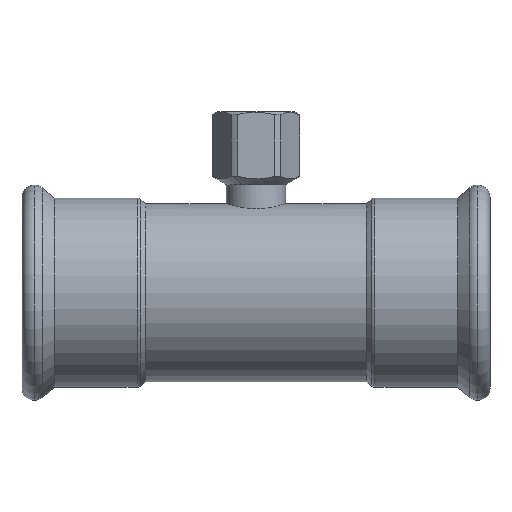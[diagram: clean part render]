
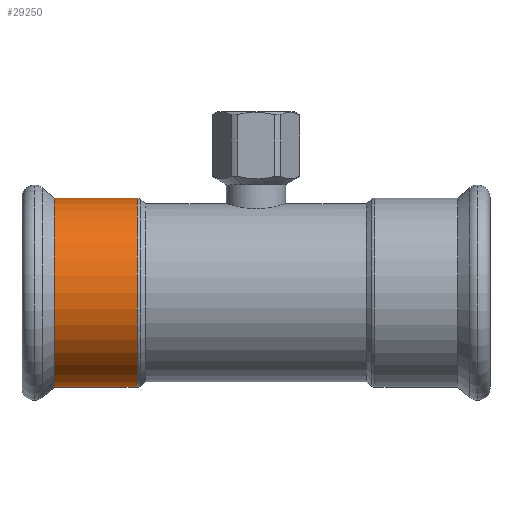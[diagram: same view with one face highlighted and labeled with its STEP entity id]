
A CAD part, top view. The second image highlights one B-rep face of the part: STEP entity #29250.
In plain terms, the highlighted cylindrical face has radius 28.7 mm (diameter 57.4 mm), a partial arc.
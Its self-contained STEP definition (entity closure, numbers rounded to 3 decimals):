
#530=CARTESIAN_POINT('',(59.044,196.267,0.));
#540=VERTEX_POINT('',#530);
#570=CARTESIAN_POINT('',(30.344,196.267,0.));
#580=DIRECTION('',(0.,1.,0.));
#590=DIRECTION('',(1.,0.,0.));
#600=AXIS2_PLACEMENT_3D('',#570,#580,#590);
#610=CIRCLE('',#600,28.7);
#620=CARTESIAN_POINT('',(1.644,196.267,0.));
#630=VERTEX_POINT('',#620);
#2570=CARTESIAN_POINT('',(30.344,208.545,0.));
#2580=DIRECTION('',(0.,-1.,0.));
#2590=DIRECTION('',(-1.,0.,0.));
#2600=AXIS2_PLACEMENT_3D('',#2570,#2580,#2590);
#2610=CYLINDRICAL_SURFACE('',#2600,28.7);
#2620=CARTESIAN_POINT('',(59.044,208.545,
0.));
#2630=DIRECTION('',(0.,-1.,0.));
#2640=VECTOR('',#2630,1.);
#2650=LINE('',#2620,#2640);
#2660=CARTESIAN_POINT('',(59.044,221.441,
0.));
#2670=VERTEX_POINT('',#2660);
#2680=EDGE_CURVE('',#2670,#540,#2650,.T.);
#2700=CARTESIAN_POINT('',(30.344,221.441,0.));
#2710=DIRECTION('',(0.,1.,0.));
#2720=DIRECTION('',(-1.,0.,0.));
#2730=AXIS2_PLACEMENT_3D('',#2700,#2710,#2720);
#2740=CIRCLE('',#2730,28.7);
#2750=CARTESIAN_POINT('',(1.644,221.441,0.));
#2760=VERTEX_POINT('',#2750);
#2790=CARTESIAN_POINT('',(1.644,208.545,0.));
#2800=DIRECTION('',(0.,-1.,0.));
#2810=VECTOR('',#2800,1.);
#2820=LINE('',#2790,#2810);
#2830=EDGE_CURVE('',#2760,#630,#2820,.T.);
#29170=EDGE_CURVE('',#2760,#2670,#2740,.T.);
#29180=ORIENTED_EDGE('',*,*,#29170,.F.);
#29190=ORIENTED_EDGE('',*,*,#2680,.F.);
#29200=EDGE_CURVE('',#630,#540,#610,.T.);
#29210=ORIENTED_EDGE('',*,*,#29200,.T.);
#29220=ORIENTED_EDGE('',*,*,#2830,.T.);
#29230=EDGE_LOOP('',(#29220,#29210,#29190,#29180));
#29240=FACE_OUTER_BOUND('',#29230,.T.);
#29250=ADVANCED_FACE('',(#29240),#2610,.T.);
